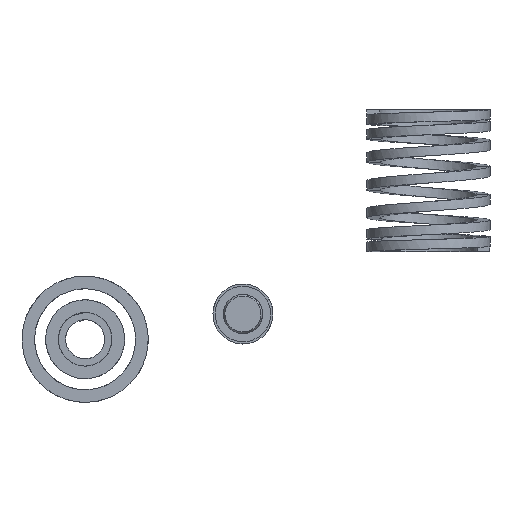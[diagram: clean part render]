
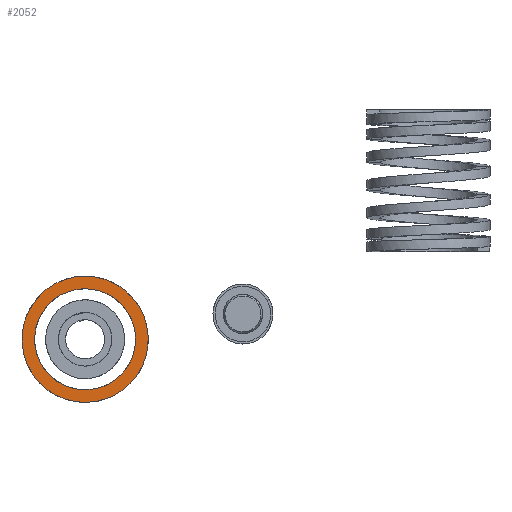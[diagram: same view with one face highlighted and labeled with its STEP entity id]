
A CAD part, left-side view. The second image highlights one B-rep face of the part: STEP entity #2052.
In plain terms, the highlighted planar face has unit normal (-1, 0, 0).
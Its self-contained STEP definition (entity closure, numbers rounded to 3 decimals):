
#882 = FACE_BOUND ( 'NONE', #24154, .T. ) ;
#1398 = CARTESIAN_POINT ( 'NONE',  ( -30., 70.035, -143.035 ) ) ;
#1399 = PLANE ( 'NONE',  #4748 ) ;
#1415 = DIRECTION ( 'NONE',  ( 1., 0., 0. ) ) ;
#1417 = DIRECTION ( 'NONE',  ( 0., 0., 1. ) ) ;
#1710 = FACE_OUTER_BOUND ( 'NONE', #24168, .T. ) ;
#2052 = ADVANCED_FACE ( 'NONE', ( #882, #1710 ), #1399, .F. ) ;
#4748 = AXIS2_PLACEMENT_3D ( 'NONE', #1398, #1415, #1417 ) ;
#5425 = VERTEX_POINT ( 'NONE', #6282 ) ;
#5426 = VERTEX_POINT ( 'NONE', #6283 ) ;
#5449 = VERTEX_POINT ( 'NONE', #6306 ) ;
#5462 = VERTEX_POINT ( 'NONE', #6319 ) ;
#6282 = CARTESIAN_POINT ( 'NONE',  ( -30., 57.671, -108.959 ) ) ;
#6283 = CARTESIAN_POINT ( 'NONE',  ( -30., 40.411, -140.552 ) ) ;
#6306 = CARTESIAN_POINT ( 'NONE',  ( -30., 42.329, -137.041 ) ) ;
#6319 = CARTESIAN_POINT ( 'NONE',  ( -30., 59.589, -105.448 ) ) ;
#9542 = EDGE_CURVE ( 'NONE', #5426, #5462, #15985, .T. ) ;
#9545 = EDGE_CURVE ( 'NONE', #5462, #5426, #15983, .T. ) ;
#9547 = EDGE_CURVE ( 'NONE', #5449, #5425, #15982, .T. ) ;
#9549 = EDGE_CURVE ( 'NONE', #5425, #5449, #15981, .T. ) ;
#14345 = CARTESIAN_POINT ( 'NONE',  ( -30., 40.411, -140.552 ) ) ;
#14373 = CARTESIAN_POINT ( 'NONE',  ( -30., 42.329, -137.041 ) ) ;
#14374 = CARTESIAN_POINT ( 'NONE',  ( -30., 43.492, -142.235 ) ) ;
#14375 = CARTESIAN_POINT ( 'NONE',  ( -30., 46.962, -143.077 ) ) ;
#14376 = CARTESIAN_POINT ( 'NONE',  ( -30., 50.472, -142.994 ) ) ;
#14377 = CARTESIAN_POINT ( 'NONE',  ( -30., 53.982, -142.912 ) ) ;
#14378 = CARTESIAN_POINT ( 'NONE',  ( -30., 57.408, -141.906 ) ) ;
#14379 = CARTESIAN_POINT ( 'NONE',  ( -30., 60.406, -140.08 ) ) ;
#14380 = CARTESIAN_POINT ( 'NONE',  ( -30., 63.404, -138.253 ) ) ;
#14381 = CARTESIAN_POINT ( 'NONE',  ( -30., 65.869, -135.669 ) ) ;
#14382 = CARTESIAN_POINT ( 'NONE',  ( -30., 67.552, -132.589 ) ) ;
#14383 = CARTESIAN_POINT ( 'NONE',  ( -30., 69.235, -129.508 ) ) ;
#14384 = CARTESIAN_POINT ( 'NONE',  ( -30., 70.077, -126.038 ) ) ;
#14385 = CARTESIAN_POINT ( 'NONE',  ( -30., 69.994, -122.528 ) ) ;
#14386 = CARTESIAN_POINT ( 'NONE',  ( -30., 69.912, -119.018 ) ) ;
#14387 = CARTESIAN_POINT ( 'NONE',  ( -30., 68.906, -115.592 ) ) ;
#14388 = CARTESIAN_POINT ( 'NONE',  ( -30., 67.08, -112.594 ) ) ;
#14389 = CARTESIAN_POINT ( 'NONE',  ( -30., 65.253, -109.596 ) ) ;
#14390 = CARTESIAN_POINT ( 'NONE',  ( -30., 62.669, -107.131 ) ) ;
#14391 = CARTESIAN_POINT ( 'NONE',  ( -30., 59.589, -105.448 ) ) ;
#14392 = CARTESIAN_POINT ( 'NONE',  ( -30., 59.589, -105.448 ) ) ;
#14444 = CARTESIAN_POINT ( 'NONE',  ( -30., 56.508, -103.765 ) ) ;
#14445 = CARTESIAN_POINT ( 'NONE',  ( -30., 53.038, -102.923 ) ) ;
#14446 = CARTESIAN_POINT ( 'NONE',  ( -30., 49.528, -103.006 ) ) ;
#14447 = CARTESIAN_POINT ( 'NONE',  ( -30., 46.018, -103.088 ) ) ;
#14448 = CARTESIAN_POINT ( 'NONE',  ( -30., 42.592, -104.094 ) ) ;
#14449 = CARTESIAN_POINT ( 'NONE',  ( -30., 39.594, -105.92 ) ) ;
#14450 = CARTESIAN_POINT ( 'NONE',  ( -30., 36.596, -107.747 ) ) ;
#14451 = CARTESIAN_POINT ( 'NONE',  ( -30., 34.131, -110.331 ) ) ;
#14452 = CARTESIAN_POINT ( 'NONE',  ( -30., 32.448, -113.411 ) ) ;
#14453 = CARTESIAN_POINT ( 'NONE',  ( -30., 30.765, -116.492 ) ) ;
#14454 = CARTESIAN_POINT ( 'NONE',  ( -30., 29.923, -119.962 ) ) ;
#14455 = CARTESIAN_POINT ( 'NONE',  ( -30., 30.006, -123.472 ) ) ;
#14456 = CARTESIAN_POINT ( 'NONE',  ( -30., 30.088, -126.982 ) ) ;
#14457 = CARTESIAN_POINT ( 'NONE',  ( -30., 31.094, -130.408 ) ) ;
#14458 = CARTESIAN_POINT ( 'NONE',  ( -30., 32.92, -133.406 ) ) ;
#14459 = CARTESIAN_POINT ( 'NONE',  ( -30., 34.747, -136.404 ) ) ;
#14460 = CARTESIAN_POINT ( 'NONE',  ( -30., 37.331, -138.869 ) ) ;
#14461 = CARTESIAN_POINT ( 'NONE',  ( -30., 40.411, -140.552 ) ) ;
#14464 = CARTESIAN_POINT ( 'NONE',  ( -30., 57.671, -108.959 ) ) ;
#14465 = CARTESIAN_POINT ( 'NONE',  ( -30., 39.864, -135.695 ) ) ;
#14466 = CARTESIAN_POINT ( 'NONE',  ( -30., 37.798, -133.723 ) ) ;
#14467 = CARTESIAN_POINT ( 'NONE',  ( -30., 36.336, -131.325 ) ) ;
#14468 = CARTESIAN_POINT ( 'NONE',  ( -30., 34.875, -128.926 ) ) ;
#14469 = CARTESIAN_POINT ( 'NONE',  ( -30., 34.071, -126.185 ) ) ;
#14470 = CARTESIAN_POINT ( 'NONE',  ( -30., 34.004, -123.378 ) ) ;
#14471 = CARTESIAN_POINT ( 'NONE',  ( -30., 33.938, -120.57 ) ) ;
#14472 = CARTESIAN_POINT ( 'NONE',  ( -30., 34.612, -117.794 ) ) ;
#14473 = CARTESIAN_POINT ( 'NONE',  ( -30., 35.959, -115.329 ) ) ;
#14474 = CARTESIAN_POINT ( 'NONE',  ( -30., 37.305, -112.864 ) ) ;
#14475 = CARTESIAN_POINT ( 'NONE',  ( -30., 39.277, -110.798 ) ) ;
#14476 = CARTESIAN_POINT ( 'NONE',  ( -30., 41.675, -109.336 ) ) ;
#14477 = CARTESIAN_POINT ( 'NONE',  ( -30., 44.074, -107.875 ) ) ;
#14478 = CARTESIAN_POINT ( 'NONE',  ( -30., 46.815, -107.071 ) ) ;
#14479 = CARTESIAN_POINT ( 'NONE',  ( -30., 49.622, -107.004 ) ) ;
#14480 = CARTESIAN_POINT ( 'NONE',  ( -30., 52.43, -106.938 ) ) ;
#14481 = CARTESIAN_POINT ( 'NONE',  ( -30., 55.206, -107.612 ) ) ;
#14482 = CARTESIAN_POINT ( 'NONE',  ( -30., 57.671, -108.959 ) ) ;
#14486 = CARTESIAN_POINT ( 'NONE',  ( -30., 60.136, -110.305 ) ) ;
#14487 = CARTESIAN_POINT ( 'NONE',  ( -30., 62.202, -112.277 ) ) ;
#14488 = CARTESIAN_POINT ( 'NONE',  ( -30., 63.664, -114.675 ) ) ;
#14489 = CARTESIAN_POINT ( 'NONE',  ( -30., 65.125, -117.074 ) ) ;
#14490 = CARTESIAN_POINT ( 'NONE',  ( -30., 65.929, -119.815 ) ) ;
#14491 = CARTESIAN_POINT ( 'NONE',  ( -30., 65.996, -122.622 ) ) ;
#14492 = CARTESIAN_POINT ( 'NONE',  ( -30., 66.062, -125.43 ) ) ;
#14493 = CARTESIAN_POINT ( 'NONE',  ( -30., 65.388, -128.206 ) ) ;
#14494 = CARTESIAN_POINT ( 'NONE',  ( -30., 64.041, -130.671 ) ) ;
#14495 = CARTESIAN_POINT ( 'NONE',  ( -30., 62.695, -133.136 ) ) ;
#14496 = CARTESIAN_POINT ( 'NONE',  ( -30., 60.723, -135.202 ) ) ;
#14497 = CARTESIAN_POINT ( 'NONE',  ( -30., 58.325, -136.664 ) ) ;
#14498 = CARTESIAN_POINT ( 'NONE',  ( -30., 55.926, -138.125 ) ) ;
#14499 = CARTESIAN_POINT ( 'NONE',  ( -30., 53.185, -138.929 ) ) ;
#14500 = CARTESIAN_POINT ( 'NONE',  ( -30., 50.378, -138.996 ) ) ;
#14501 = CARTESIAN_POINT ( 'NONE',  ( -30., 47.57, -139.062 ) ) ;
#14502 = CARTESIAN_POINT ( 'NONE',  ( -30., 44.794, -138.388 ) ) ;
#14503 = CARTESIAN_POINT ( 'NONE',  ( -30., 42.329, -137.041 ) ) ;
#15981 = B_SPLINE_CURVE_WITH_KNOTS ( 'NONE', 3,
 ( #14464, #14486, #14487, #14488, #14489, #14490, #14491, #14492, #14493, #14494, #14495, #14496, #14497, #14498, #14499, #14500, #14501, #14502, #14503 ),
 .UNSPECIFIED., .F., .F.,
 ( 4, 3, 3, 3, 3, 3, 4 ),
 ( 0., 0.008, 0.017, 0.025, 0.033, 0.042, 0.05 ),
 .UNSPECIFIED. ) ;
#15982 = B_SPLINE_CURVE_WITH_KNOTS ( 'NONE', 3,
 ( #14373, #14465, #14466, #14467, #14468, #14469, #14470, #14471, #14472, #14473, #14474, #14475, #14476, #14477, #14478, #14479, #14480, #14481, #14482 ),
 .UNSPECIFIED., .F., .F.,
 ( 4, 3, 3, 3, 3, 3, 4 ),
 ( 0., 0.008, 0.017, 0.025, 0.033, 0.042, 0.05 ),
 .UNSPECIFIED. ) ;
#15983 = B_SPLINE_CURVE_WITH_KNOTS ( 'NONE', 3,
 ( #14392, #14444, #14445, #14446, #14447, #14448, #14449, #14450, #14451, #14452, #14453, #14454, #14455, #14456, #14457, #14458, #14459, #14460, #14461 ),
 .UNSPECIFIED., .F., .F.,
 ( 4, 3, 3, 3, 3, 3, 4 ),
 ( 0., 0.01, 0.021, 0.031, 0.042, 0.052, 0.063 ),
 .UNSPECIFIED. ) ;
#15985 = B_SPLINE_CURVE_WITH_KNOTS ( 'NONE', 3,
 ( #14345, #14374, #14375, #14376, #14377, #14378, #14379, #14380, #14381, #14382, #14383, #14384, #14385, #14386, #14387, #14388, #14389, #14390, #14391 ),
 .UNSPECIFIED., .F., .F.,
 ( 4, 3, 3, 3, 3, 3, 4 ),
 ( 0., 0.01, 0.021, 0.031, 0.042, 0.052, 0.063 ),
 .UNSPECIFIED. ) ;
#24154 = EDGE_LOOP ( 'NONE', ( #24446, #24213 ) ) ;
#24168 = EDGE_LOOP ( 'NONE', ( #24389, #24375 ) ) ;
#24213 = ORIENTED_EDGE ( 'NONE', *, *, #9549, .F. ) ;
#24375 = ORIENTED_EDGE ( 'NONE', *, *, #9545, .F. ) ;
#24389 = ORIENTED_EDGE ( 'NONE', *, *, #9542, .F. ) ;
#24446 = ORIENTED_EDGE ( 'NONE', *, *, #9547, .F. ) ;
